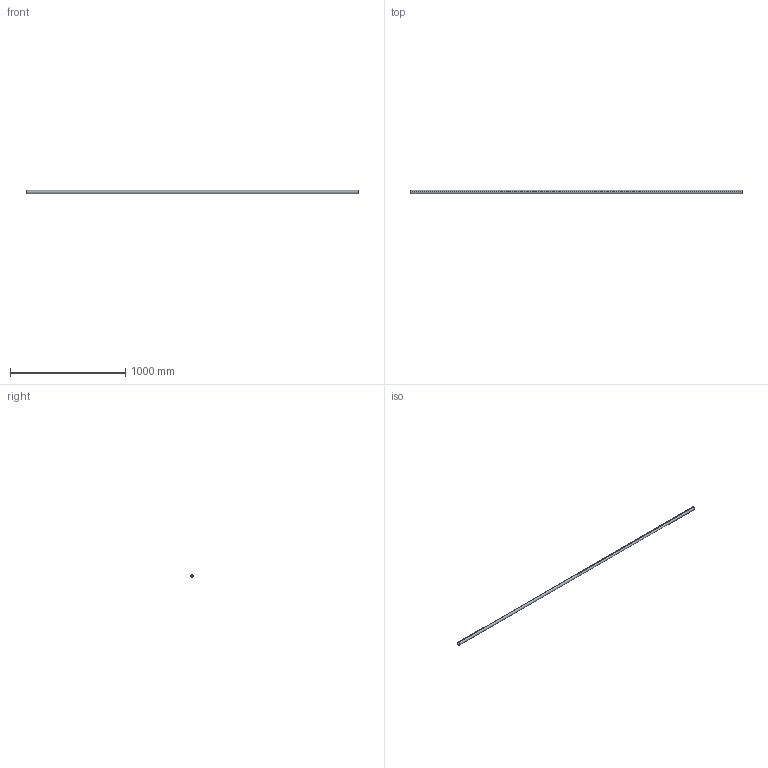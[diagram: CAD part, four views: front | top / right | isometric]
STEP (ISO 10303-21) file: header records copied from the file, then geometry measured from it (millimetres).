
FILE_DESCRIPTION (( 'STEP AP214' ), '1' );
FILE_NAME ('CCJ029-REP.314 - LISSE PLATEFORME INFERIEURE C1-C2.STEP', '2024-01-31T09:56:38', ( '' ), ( '' ), 'SwSTEP 2.0', 'SolidWorks 2021', '' );
FILE_SCHEMA (( 'AUTOMOTIVE_DESIGN' ));
Length unit declared in the file: millimetre
Products named in the file (1): CCJ029-REP.314 - LISSE PLATEFORME INFERIEURE C1-C2
Bounding box: 2880 x 26.9 x 26.9 mm (x, y, z)
Volume: 511923.8 mm3; surface area: 445506.6 mm2
Topology: 1 solids, 1 shells, 6 faces, 12 edges, 8 vertices
Faces by surface type: cylinder 4, plane 2
Entity records: 202 total; most frequent: DIRECTION 34, CARTESIAN_POINT 27, ORIENTED_EDGE 24, AXIS2_PLACEMENT_3D 15, EDGE_CURVE 12, EDGE_LOOP 8, VERTEX_POINT 8, CIRCLE 8
